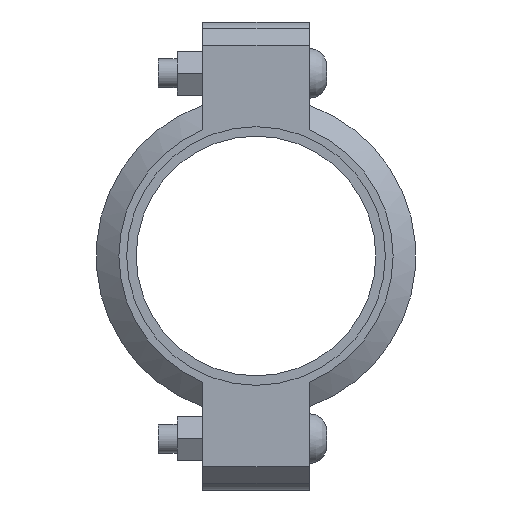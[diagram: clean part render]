
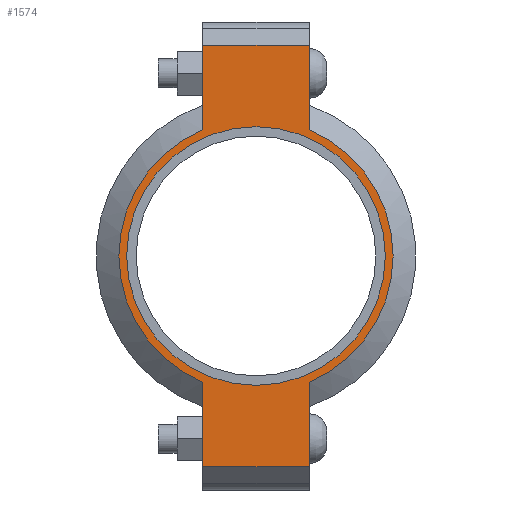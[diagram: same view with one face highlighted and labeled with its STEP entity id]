
A CAD part, left-side view. The second image highlights one B-rep face of the part: STEP entity #1574.
In plain terms, the highlighted planar face has unit normal (-1, 0, 0) as drawn and (0, 0, 1) by its records, which use the part's own axes.
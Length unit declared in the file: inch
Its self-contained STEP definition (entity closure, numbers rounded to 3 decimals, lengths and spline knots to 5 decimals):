
#198=LINE('',#2747,#291);
#206=LINE('',#2783,#299);
#213=LINE('',#2804,#306);
#222=LINE('',#2836,#315);
#223=LINE('',#2840,#316);
#224=LINE('',#2842,#317);
#291=VECTOR('',#2235,0.3937);
#299=VECTOR('',#2251,0.3937);
#306=VECTOR('',#2270,0.3937);
#315=VECTOR('',#2295,0.3937);
#316=VECTOR('',#2300,0.3937);
#317=VECTOR('',#2301,0.3937);
#373=FACE_BOUND('',#551,.T.);
#445=FACE_OUTER_BOUND('',#550,.T.);
#550=EDGE_LOOP('',(#1315,#1316,#1317,#1318,#1319,#1320,#1321,#1322));
#551=EDGE_LOOP('',(#1323));
#623=CIRCLE('',#1793,2.7815);
#649=CIRCLE('',#1852,2.95);
#650=CIRCLE('',#1853,2.95);
#715=VERTEX_POINT('',#2563);
#758=VERTEX_POINT('',#2744);
#759=VERTEX_POINT('',#2746);
#770=VERTEX_POINT('',#2778);
#771=VERTEX_POINT('',#2782);
#778=VERTEX_POINT('',#2801);
#779=VERTEX_POINT('',#2803);
#789=VERTEX_POINT('',#2839);
#790=VERTEX_POINT('',#2841);
#871=EDGE_CURVE('',#715,#715,#623,.T.);
#932=EDGE_CURVE('',#759,#758,#198,.T.);
#946=EDGE_CURVE('',#771,#770,#206,.T.);
#956=EDGE_CURVE('',#779,#778,#213,.T.);
#971=EDGE_CURVE('',#771,#758,#222,.T.);
#972=EDGE_CURVE('',#770,#779,#649,.T.);
#973=EDGE_CURVE('',#789,#778,#223,.T.);
#974=EDGE_CURVE('',#789,#790,#224,.T.);
#975=EDGE_CURVE('',#790,#759,#650,.T.);
#1315=ORIENTED_EDGE('',*,*,#971,.F.);
#1316=ORIENTED_EDGE('',*,*,#946,.T.);
#1317=ORIENTED_EDGE('',*,*,#972,.T.);
#1318=ORIENTED_EDGE('',*,*,#956,.T.);
#1319=ORIENTED_EDGE('',*,*,#973,.F.);
#1320=ORIENTED_EDGE('',*,*,#974,.T.);
#1321=ORIENTED_EDGE('',*,*,#975,.T.);
#1322=ORIENTED_EDGE('',*,*,#932,.T.);
#1323=ORIENTED_EDGE('',*,*,#871,.T.);
#1416=PLANE('',#1851);
#1574=ADVANCED_FACE('',(#445,#373),#1416,.T.);
#1793=AXIS2_PLACEMENT_3D('',#2565,#2111,#2112);
#1851=AXIS2_PLACEMENT_3D('',#2837,#2296,#2297);
#1852=AXIS2_PLACEMENT_3D('',#2838,#2298,#2299);
#1853=AXIS2_PLACEMENT_3D('',#2843,#2302,#2303);
#2111=DIRECTION('center_axis',(0.,0.,-1.));
#2112=DIRECTION('ref_axis',(-1.,0.,0.));
#2235=DIRECTION('',(-1.,0.,0.));
#2251=DIRECTION('',(1.,0.,0.));
#2270=DIRECTION('',(1.,0.,0.));
#2295=DIRECTION('',(0.,1.,0.));
#2296=DIRECTION('center_axis',(0.,0.,1.));
#2297=DIRECTION('ref_axis',(1.,0.,0.));
#2298=DIRECTION('center_axis',(0.,0.,1.));
#2299=DIRECTION('ref_axis',(-1.,0.,0.));
#2300=DIRECTION('',(0.,-1.,0.));
#2301=DIRECTION('',(-1.,0.,0.));
#2302=DIRECTION('center_axis',(0.,0.,1.));
#2303=DIRECTION('ref_axis',(-1.,0.,0.));
#2563=CARTESIAN_POINT('',(2.7815,0.,1.065));
#2565=CARTESIAN_POINT('Origin',(0.,0.,1.065));
#2744=CARTESIAN_POINT('',(-4.535,1.15,1.065));
#2746=CARTESIAN_POINT('',(-2.71662,1.15,1.065));
#2747=CARTESIAN_POINT('',(-5.035,1.15,1.065));
#2778=CARTESIAN_POINT('',(-2.71662,-1.15,1.065));
#2782=CARTESIAN_POINT('',(-4.535,-1.15,1.065));
#2783=CARTESIAN_POINT('',(5.035,-1.15,1.065));
#2801=CARTESIAN_POINT('',(4.535,-1.15,1.065));
#2803=CARTESIAN_POINT('',(2.71662,-1.15,1.065));
#2804=CARTESIAN_POINT('',(5.035,-1.15,1.065));
#2836=CARTESIAN_POINT('',(-4.535,0.575,1.065));
#2837=CARTESIAN_POINT('Origin',(0.,0.,1.065));
#2838=CARTESIAN_POINT('Origin',(0.,0.,1.065));
#2839=CARTESIAN_POINT('',(4.535,1.15,1.065));
#2840=CARTESIAN_POINT('',(4.535,-0.575,1.065));
#2841=CARTESIAN_POINT('',(2.71662,1.15,1.065));
#2842=CARTESIAN_POINT('',(-5.035,1.15,1.065));
#2843=CARTESIAN_POINT('Origin',(0.,0.,1.065));
